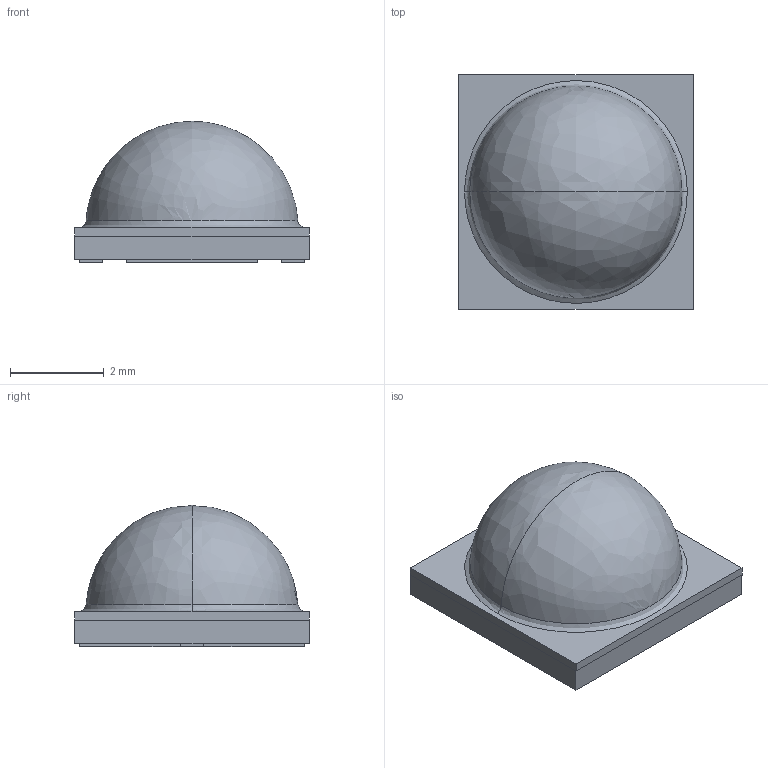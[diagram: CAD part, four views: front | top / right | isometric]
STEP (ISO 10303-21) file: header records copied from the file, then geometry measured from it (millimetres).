
FILE_DESCRIPTION(/* description */ (''),/* implementation_level */ '2;1');
FILE_NAME(/* name */ 'STE6747',/* time_stamp */ '2024-12-13T10:40:59+08:00',/* author */ (''),/* organization */ (''),/* preprocessor_version */ 'ST-DEVELOPER v16.5',/* originating_system */ '',/* authorisation */ '');
FILE_SCHEMA (('CONFIG_CONTROL_DESIGN'));
Length unit declared in the file: millimetre
Products named in the file (1): Document
Bounding box: 5 x 5 x 3.01 mm (x, y, z)
Volume: 45.7 mm3; surface area: 249.8 mm2
Topology: 42 solids, 42 shells, 668 faces, 1468 edges, 893 vertices
Faces by surface type: plane 275, bspline 264, cylinder 129
Entity records: 36033 total; most frequent: CARTESIAN_POINT 26061, ORIENTED_EDGE 2936, EDGE_CURVE 1468, VERTEX_POINT 893, B_SPLINE_CURVE_WITH_KNOTS 734, EDGE_LOOP 679, ADVANCED_FACE 668, FACE_OUTER_BOUND 668
